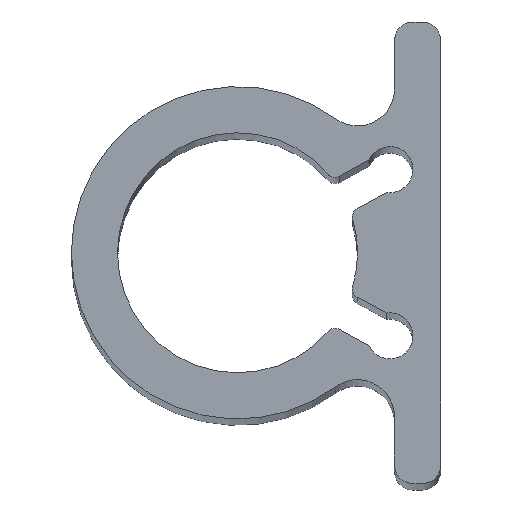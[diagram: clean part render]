
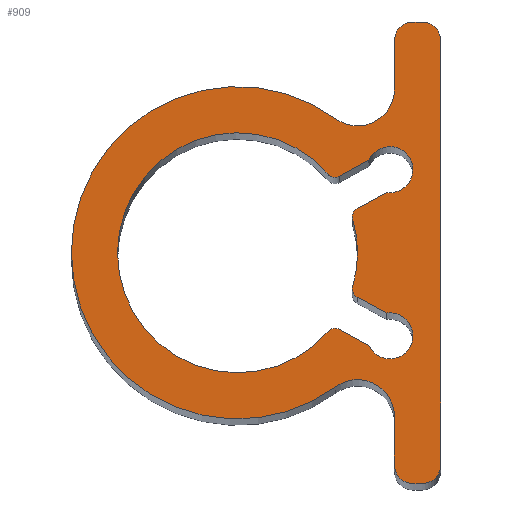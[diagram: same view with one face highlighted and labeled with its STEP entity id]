
A CAD part, top view. The second image highlights one B-rep face of the part: STEP entity #909.
In plain terms, the highlighted planar face has unit normal (0, 0, 1).
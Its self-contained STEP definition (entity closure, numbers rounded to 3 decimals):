
#73=CARTESIAN_POINT('',(4.877,4.444,200.0));
#74=VERTEX_POINT('',#73);
#75=CARTESIAN_POINT('',(5.493,4.333,200.0));
#76=VERTEX_POINT('',#75);
#77=CARTESIAN_POINT('',(5.254,4.772,200.0));
#78=DIRECTION('',(0.0,0.0,1.));
#79=DIRECTION('',(0.755,0.656,0.0));
#80=AXIS2_PLACEMENT_3D('',#77,#78,#79);
#81=CIRCLE('',#80,0.5);
#82=EDGE_CURVE('',#74,#76,#81,.T.);
#115=CARTESIAN_POINT('',(7.083,5.2,200.0));
#116=VERTEX_POINT('',#115);
#117=CARTESIAN_POINT('',(5.493,4.333,200.0));
#118=DIRECTION('',(0.878,0.479,0.0));
#119=VECTOR('',#118,1.81);
#120=LINE('',#117,#119);
#121=EDGE_CURVE('',#76,#116,#120,.T.);
#146=CARTESIAN_POINT('',(8.04,3.444,200.0));
#147=VERTEX_POINT('',#146);
#148=CARTESIAN_POINT('',(8.22,4.681,200.0));
#149=DIRECTION('',(0.0,0.0,-1.0));
#150=DIRECTION('',(-0.144,-0.99,0.0));
#151=AXIS2_PLACEMENT_3D('',#148,#149,#150);
#152=CIRCLE('',#151,1.25);
#153=EDGE_CURVE('',#116,#147,#152,.T.);
#179=CARTESIAN_POINT('',(6.451,2.577,200.0));
#180=VERTEX_POINT('',#179);
#181=CARTESIAN_POINT('',(8.04,3.444,200.0));
#182=DIRECTION('',(-0.878,-0.479,0.0));
#183=VECTOR('',#182,1.81);
#184=LINE('',#181,#183);
#185=EDGE_CURVE('',#147,#180,#184,.T.);
#210=CARTESIAN_POINT('',(6.211,1.999,200.0));
#211=VERTEX_POINT('',#210);
#212=CARTESIAN_POINT('',(6.691,2.138,200.0));
#213=DIRECTION('',(0.0,0.0,1.0));
#214=DIRECTION('',(0.479,-0.878,0.0));
#215=AXIS2_PLACEMENT_3D('',#212,#213,#214);
#216=CIRCLE('',#215,0.5);
#217=EDGE_CURVE('',#180,#211,#216,.T.);
#243=CARTESIAN_POINT('',(6.211,-1.636,200.0));
#244=VERTEX_POINT('',#243);
#245=CARTESIAN_POINT('',(-0.03,0.181,200.0));
#246=DIRECTION('',(0.0,0.0,-1.0));
#247=DIRECTION('',(0.96,-0.28,0.0));
#248=AXIS2_PLACEMENT_3D('',#245,#246,#247);
#249=CIRCLE('',#248,6.5);
#250=EDGE_CURVE('',#211,#244,#249,.T.);
#276=CARTESIAN_POINT('',(6.451,-2.215,200.0));
#277=VERTEX_POINT('',#276);
#278=CARTESIAN_POINT('',(6.691,-1.776,200.0));
#279=DIRECTION('',(0.0,0.0,1.0));
#280=DIRECTION('',(0.96,-0.28,0.0));
#281=AXIS2_PLACEMENT_3D('',#278,#279,#280);
#282=CIRCLE('',#281,0.5);
#283=EDGE_CURVE('',#244,#277,#282,.T.);
#309=CARTESIAN_POINT('',(8.04,-3.082,200.0));
#310=VERTEX_POINT('',#309);
#311=CARTESIAN_POINT('',(6.451,-2.215,200.0));
#312=DIRECTION('',(0.878,-0.479,0.0));
#313=VECTOR('',#312,1.81);
#314=LINE('',#311,#313);
#315=EDGE_CURVE('',#277,#310,#314,.T.);
#340=CARTESIAN_POINT('',(7.083,-4.838,200.0));
#341=VERTEX_POINT('',#340);
#342=CARTESIAN_POINT('',(8.22,-4.319,200.0));
#343=DIRECTION('',(0.0,0.0,-1.));
#344=DIRECTION('',(-0.91,-0.415,0.0));
#345=AXIS2_PLACEMENT_3D('',#342,#343,#344);
#346=CIRCLE('',#345,1.25);
#347=EDGE_CURVE('',#310,#341,#346,.T.);
#373=CARTESIAN_POINT('',(5.493,-3.971,200.0));
#374=VERTEX_POINT('',#373);
#375=CARTESIAN_POINT('',(7.083,-4.838,200.0));
#376=DIRECTION('',(-0.878,0.479,0.0));
#377=VECTOR('',#376,1.81);
#378=LINE('',#375,#377);
#379=EDGE_CURVE('',#341,#374,#378,.T.);
#404=CARTESIAN_POINT('',(4.877,-4.082,200.0));
#405=VERTEX_POINT('',#404);
#406=CARTESIAN_POINT('',(5.254,-4.41,200.0));
#407=DIRECTION('',(0.0,0.0,1.0));
#408=DIRECTION('',(-0.479,-0.878,0.0));
#409=AXIS2_PLACEMENT_3D('',#406,#407,#408);
#410=CIRCLE('',#409,0.5);
#411=EDGE_CURVE('',#374,#405,#410,.T.);
#437=CARTESIAN_POINT('',(-0.03,0.181,200.0));
#438=DIRECTION('',(0.0,0.0,-1.0));
#439=DIRECTION('',(0.755,0.656,0.0));
#440=AXIS2_PLACEMENT_3D('',#437,#438,#439);
#441=CIRCLE('',#440,6.5);
#442=EDGE_CURVE('',#405,#74,#441,.T.);
#461=CARTESIAN_POINT('',(5.288,7.442,200.0));
#462=VERTEX_POINT('',#461);
#463=CARTESIAN_POINT('',(8.47,9.055,200.0));
#464=VERTEX_POINT('',#463);
#465=CARTESIAN_POINT('',(6.47,9.055,200.0));
#466=DIRECTION('',(0.0,0.0,1.));
#467=DIRECTION('',(0.591,0.807,0.0));
#468=AXIS2_PLACEMENT_3D('',#465,#466,#467);
#469=CIRCLE('',#468,2.0);
#470=EDGE_CURVE('',#462,#464,#469,.T.);
#503=CARTESIAN_POINT('',(8.47,11.681,200.0));
#504=VERTEX_POINT('',#503);
#505=CARTESIAN_POINT('',(8.47,9.055,200.0));
#506=DIRECTION('',(0.0,1.0,0.0));
#507=VECTOR('',#506,2.626);
#508=LINE('',#505,#507);
#509=EDGE_CURVE('',#464,#504,#508,.T.);
#534=CARTESIAN_POINT('',(9.47,12.681,200.0));
#535=VERTEX_POINT('',#534);
#536=CARTESIAN_POINT('',(9.47,11.681,200.0));
#537=DIRECTION('',(0.0,0.0,-1.0));
#538=DIRECTION('',(0.0,1.0,0.0));
#539=AXIS2_PLACEMENT_3D('',#536,#537,#538);
#540=CIRCLE('',#539,1.0);
#541=EDGE_CURVE('',#504,#535,#540,.T.);
#567=CARTESIAN_POINT('',(9.97,12.681,200.0));
#568=VERTEX_POINT('',#567);
#569=CARTESIAN_POINT('',(9.47,12.681,200.0));
#570=DIRECTION('',(1.0,0.0,0.0));
#571=VECTOR('',#570,0.5);
#572=LINE('',#569,#571);
#573=EDGE_CURVE('',#535,#568,#572,.T.);
#598=CARTESIAN_POINT('',(10.97,11.681,200.0));
#599=VERTEX_POINT('',#598);
#600=CARTESIAN_POINT('',(9.97,11.681,200.0));
#601=DIRECTION('',(0.0,0.0,-1.0));
#602=DIRECTION('',(1.0,0.0,0.0));
#603=AXIS2_PLACEMENT_3D('',#600,#601,#602);
#604=CIRCLE('',#603,1.0);
#605=EDGE_CURVE('',#568,#599,#604,.T.);
#631=CARTESIAN_POINT('',(10.97,-11.319,200.0));
#632=VERTEX_POINT('',#631);
#633=CARTESIAN_POINT('',(10.97,11.681,200.0));
#634=DIRECTION('',(0.0,-1.0,0.0));
#635=VECTOR('',#634,23.);
#636=LINE('',#633,#635);
#637=EDGE_CURVE('',#599,#632,#636,.T.);
#662=CARTESIAN_POINT('',(9.97,-12.319,200.0));
#663=VERTEX_POINT('',#662);
#664=CARTESIAN_POINT('',(9.97,-11.319,200.0));
#665=DIRECTION('',(0.0,0.0,-1.0));
#666=DIRECTION('',(0.0,-1.0,0.0));
#667=AXIS2_PLACEMENT_3D('',#664,#665,#666);
#668=CIRCLE('',#667,1.0);
#669=EDGE_CURVE('',#632,#663,#668,.T.);
#695=CARTESIAN_POINT('',(9.47,-12.319,200.0));
#696=VERTEX_POINT('',#695);
#697=CARTESIAN_POINT('',(9.97,-12.319,200.0));
#698=DIRECTION('',(-1.0,0.0,0.0));
#699=VECTOR('',#698,0.5);
#700=LINE('',#697,#699);
#701=EDGE_CURVE('',#663,#696,#700,.T.);
#726=CARTESIAN_POINT('',(8.47,-11.319,200.0));
#727=VERTEX_POINT('',#726);
#728=CARTESIAN_POINT('',(9.47,-11.319,200.0));
#729=DIRECTION('',(0.0,0.0,-1.0));
#730=DIRECTION('',(-1.0,0.0,0.0));
#731=AXIS2_PLACEMENT_3D('',#728,#729,#730);
#732=CIRCLE('',#731,1.0);
#733=EDGE_CURVE('',#696,#727,#732,.T.);
#759=CARTESIAN_POINT('',(8.47,-8.693,200.0));
#760=VERTEX_POINT('',#759);
#761=CARTESIAN_POINT('',(8.47,-11.319,200.0));
#762=DIRECTION('',(0.0,1.0,0.0));
#763=VECTOR('',#762,2.626);
#764=LINE('',#761,#763);
#765=EDGE_CURVE('',#727,#760,#764,.T.);
#790=CARTESIAN_POINT('',(5.288,-7.08,200.0));
#791=VERTEX_POINT('',#790);
#792=CARTESIAN_POINT('',(6.47,-8.693,200.0));
#793=DIRECTION('',(0.0,0.0,1.0));
#794=DIRECTION('',(-1.0,0.0,0.0));
#795=AXIS2_PLACEMENT_3D('',#792,#793,#794);
#796=CIRCLE('',#795,2.0);
#797=EDGE_CURVE('',#760,#791,#796,.T.);
#823=CARTESIAN_POINT('',(-0.03,0.181,200.0));
#824=DIRECTION('',(0.0,0.0,-1.0));
#825=DIRECTION('',(0.591,0.807,0.0));
#826=AXIS2_PLACEMENT_3D('',#823,#824,#825);
#827=CIRCLE('',#826,9.);
#828=EDGE_CURVE('',#791,#462,#827,.T.);
#876=CARTESIAN_POINT('',(3.951,0.181,200.0));
#877=DIRECTION('',(0.0,0.0,1.0));
#878=DIRECTION('',(1.0,0.0,0.0));
#879=AXIS2_PLACEMENT_3D('',#876,#877,#878);
#880=PLANE('',#879);
#881=ORIENTED_EDGE('',*,*,#470,.F.);
#882=ORIENTED_EDGE('',*,*,#828,.F.);
#883=ORIENTED_EDGE('',*,*,#797,.F.);
#884=ORIENTED_EDGE('',*,*,#765,.F.);
#885=ORIENTED_EDGE('',*,*,#733,.F.);
#886=ORIENTED_EDGE('',*,*,#701,.F.);
#887=ORIENTED_EDGE('',*,*,#669,.F.);
#888=ORIENTED_EDGE('',*,*,#637,.F.);
#889=ORIENTED_EDGE('',*,*,#605,.F.);
#890=ORIENTED_EDGE('',*,*,#573,.F.);
#891=ORIENTED_EDGE('',*,*,#541,.F.);
#892=ORIENTED_EDGE('',*,*,#509,.F.);
#893=EDGE_LOOP('',(#881,#882,#883,#884,#885,#886,#887,#888,#889,#890,#891,#892));
#894=FACE_OUTER_BOUND('',#893,.T.);
#895=ORIENTED_EDGE('',*,*,#82,.T.);
#896=ORIENTED_EDGE('',*,*,#121,.T.);
#897=ORIENTED_EDGE('',*,*,#153,.T.);
#898=ORIENTED_EDGE('',*,*,#185,.T.);
#899=ORIENTED_EDGE('',*,*,#217,.T.);
#900=ORIENTED_EDGE('',*,*,#250,.T.);
#901=ORIENTED_EDGE('',*,*,#283,.T.);
#902=ORIENTED_EDGE('',*,*,#315,.T.);
#903=ORIENTED_EDGE('',*,*,#347,.T.);
#904=ORIENTED_EDGE('',*,*,#379,.T.);
#905=ORIENTED_EDGE('',*,*,#411,.T.);
#906=ORIENTED_EDGE('',*,*,#442,.T.);
#907=EDGE_LOOP('',(#895,#896,#897,#898,#899,#900,#901,#902,#903,#904,#905,#906));
#908=FACE_BOUND('',#907,.T.);
#909=ADVANCED_FACE('',(#894,#908),#880,.T.);
